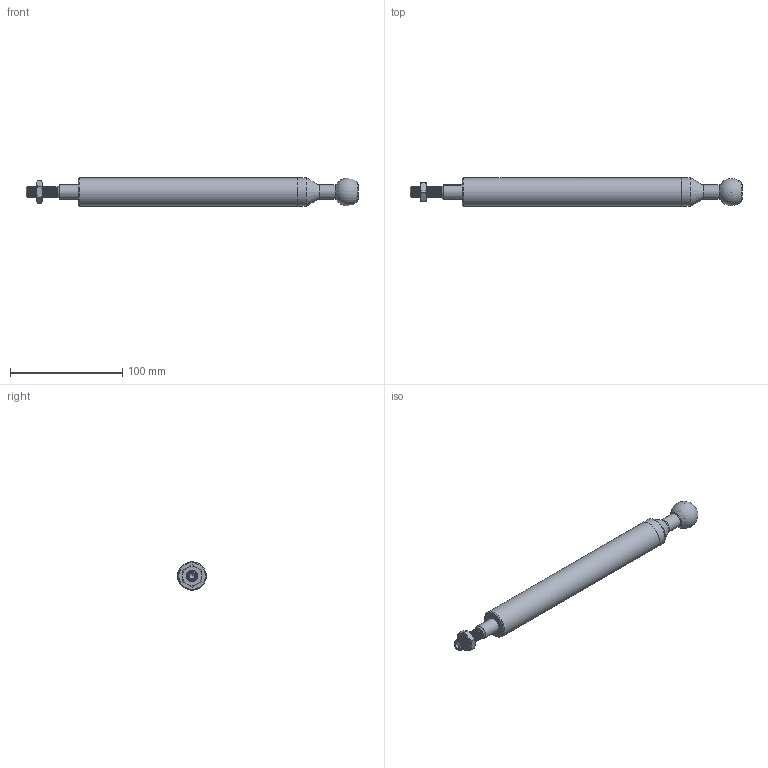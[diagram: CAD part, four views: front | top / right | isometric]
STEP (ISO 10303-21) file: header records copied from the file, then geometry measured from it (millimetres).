
FILE_DESCRIPTION(/* description */ (''),/* implementation_level */ '2;1');
FILE_NAME(/* name */ 'C:\Users\Doug Biddinger\Desktop\THREADED POST UPDATES\PL-TPOST6IN-THD.stp',/* time_stamp */ '2019-02-28T15:07:48-05:00',/* author */ ('Doug Biddinger'),/* organization */ (''),/* preprocessor_version */ 'ST-DEVELOPER v17',/* originating_system */ 'Autodesk Inventor 2019',/* authorisation */ '');
FILE_SCHEMA (('CONFIG_CONTROL_DESIGN'));
Products named in the file (6): PL-TPOST6IN; 60007; 60008; 60010; 60002; 60046
Assembly tree (5 placements, depth 2):
  PL-TPOST6IN
    60007
    60008
    60010
    60002
    60046
Bounding box: 295.25 x 25.27 x 25.15 mm (x, y, z)
Volume: 116235.7 mm3; surface area: 41472.2 mm2
Topology: 6 solids, 6 shells, 948 faces, 2559 edges, 1707 vertices
Faces by surface type: plane 414, bspline 372, cylinder 122, cone 32, torus 7, sphere 1
Full cylindrical faces by diameter (mm): 4 x1, 4.928 x1, 4.978 x1, 6 x1, 8.042 x2, 9 x2, 10 x20, 12.611 x1, 12.7 x1, 12.769 x1, 13.576 x1, 13.785 x1, 13.83 x2, 13.886 x1, 25.146 x2
Entity records: 46602 total; most frequent: CARTESIAN_POINT 24774, ORIENTED_EDGE 5112, DIRECTION 3382, EDGE_CURVE 2556, VERTEX_POINT 1707, LINE 1190, VECTOR 1190, AXIS2_PLACEMENT_3D 1096
